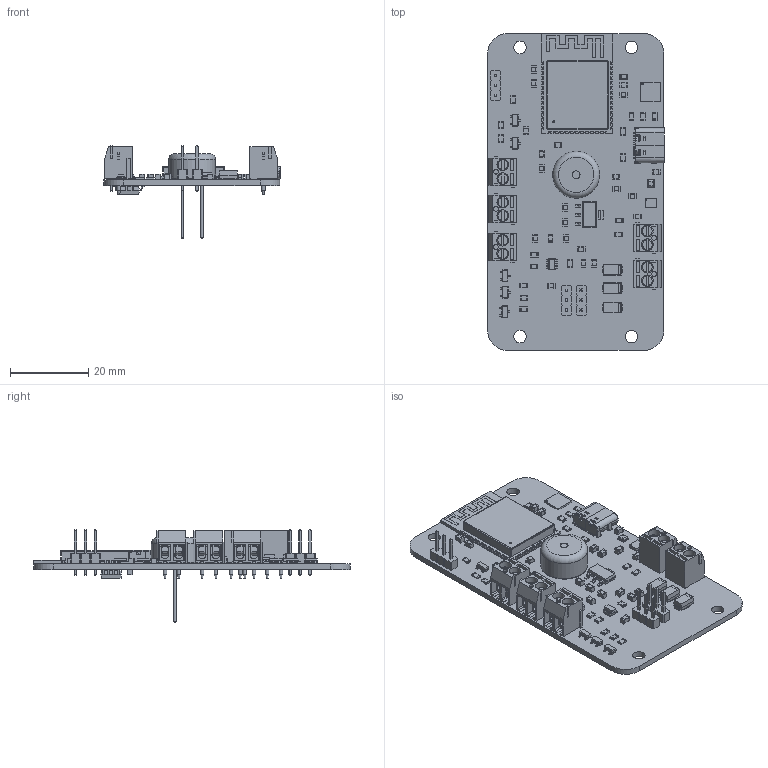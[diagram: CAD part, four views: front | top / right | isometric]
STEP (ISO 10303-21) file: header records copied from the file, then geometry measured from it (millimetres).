
FILE_DESCRIPTION(/* description */ ('STEP AP242 Edition 2','CAx-IF Rec.Pracs.---Representation and Presentation of Product Manufacturing Information (PMI)---4.0---2014-10-13','CAx-IF Rec.Pracs.---3D Tessellated Geometry---0.4---2014-09-14','2;1','CAx-IF Rec.Pracs.---User Defined Attributes---1.5---2016-08-15'),/* implementation_level */ '2;1');
FILE_NAME(/* name */ '695afeb4d13f1a023388937b',/* time_stamp */ '2026-01-04T23:58:46Z',/* author */ (''),/* organization */ (''),/* preprocessor_version */ 'ST-DEVELOPER v20',/* originating_system */ 'ONSHAPE BY PTC INC, 1.208',/* authorisation */ ' ');
FILE_SCHEMA (('AP242_MANAGED_MODEL_BASED_3D_ENGINEERING_MIM_LF { 1 0 10303 442 3 1 4 }'));
Products named in the file (168): RAM R2 1 (1); USB_C_Receptacle_GCT_USB4105-xx-A_16P_TopMnt_Horizontal; BMI270--3DModel-STEP-56544; PinHeader_1x03_P2.54mm_Vertical; CP2102N-A02-GQFN28; BMP390L--3DModel-STEP-510211; C_0805_2012Metric; SOT-23; ESP32-S3-WROOM-1-N8R2--3DModel-STEP-56544; R_0805_2012Metric; OSTTE020104--3DModel-STEP-56544; L_0805_2012Metric; D_SMA; SOT-223; LED_0805_2012Metric; Buzzer_TDK_PS1240P02BT_D12.2mm_H6.5mm; SOT-23-6; SOIC-8_5.3x5.3mm_P1.27mm; RAM R2_PCB
Assembly tree (231 placements, depth 2):
  RAM R2 1 (1)
    USB_C_Receptacle_GCT_USB4105-xx-A_16P_TopMnt_Horizontal
    BMI270--3DModel-STEP-56544
    BMI270--3DModel-STEP-56544
    USB_C_Receptacle_GCT_USB4105-xx-A_16P_TopMnt_Horizontal
    PinHeader_1x03_P2.54mm_Vertical  x3
    CP2102N-A02-GQFN28
    BMP390L--3DModel-STEP-510211
    C_0805_2012Metric  x21
    BMI270--3DModel-STEP-56544
    SOT-23  x5
    ESP32-S3-WROOM-1-N8R2--3DModel-STEP-56544
    R_0805_2012Metric  x17
    CP2102N-A02-GQFN28
    BMP390L--3DModel-STEP-510211
    CP2102N-A02-GQFN28
    USB_C_Receptacle_GCT_USB4105-xx-A_16P_TopMnt_Horizontal
    USB_C_Receptacle_GCT_USB4105-xx-A_16P_TopMnt_Horizontal
    OSTTE020104--3DModel-STEP-56544  x5
    USB_C_Receptacle_GCT_USB4105-xx-A_16P_TopMnt_Horizontal
    USB_C_Receptacle_GCT_USB4105-xx-A_16P_TopMnt_Horizontal
    OSTTE020104--3DModel-STEP-56544  x5
    CP2102N-A02-GQFN28
    L_0805_2012Metric
    ESP32-S3-WROOM-1-N8R2--3DModel-STEP-56544
    ESP32-S3-WROOM-1-N8R2--3DModel-STEP-56544
    USB_C_Receptacle_GCT_USB4105-xx-A_16P_TopMnt_Horizontal
    CP2102N-A02-GQFN28
    ESP32-S3-WROOM-1-N8R2--3DModel-STEP-56544
    USB_C_Receptacle_GCT_USB4105-xx-A_16P_TopMnt_Horizontal
    ESP32-S3-WROOM-1-N8R2--3DModel-STEP-56544
    CP2102N-A02-GQFN28
    ESP32-S3-WROOM-1-N8R2--3DModel-STEP-56544
    OSTTE020104--3DModel-STEP-56544  x5
    OSTTE020104--3DModel-STEP-56544  x5
    BMI270--3DModel-STEP-56544
    ESP32-S3-WROOM-1-N8R2--3DModel-STEP-56544
    CP2102N-A02-GQFN28
    CP2102N-A02-GQFN28
    D_SMA  x3
    ESP32-S3-WROOM-1-N8R2--3DModel-STEP-56544
    CP2102N-A02-GQFN28
    ESP32-S3-WROOM-1-N8R2--3DModel-STEP-56544
    BMP390L--3DModel-STEP-510211
    OSTTE020104--3DModel-STEP-56544  x5
    CP2102N-A02-GQFN28
    USB_C_Receptacle_GCT_USB4105-xx-A_16P_TopMnt_Horizontal
    BMI270--3DModel-STEP-56544
    BMI270--3DModel-STEP-56544
    ESP32-S3-WROOM-1-N8R2--3DModel-STEP-56544
    BMP390L--3DModel-STEP-510211
    CP2102N-A02-GQFN28
    CP2102N-A02-GQFN28
    CP2102N-A02-GQFN28
    ESP32-S3-WROOM-1-N8R2--3DModel-STEP-56544
    ESP32-S3-WROOM-1-N8R2--3DModel-STEP-56544
    ESP32-S3-WROOM-1-N8R2--3DModel-STEP-56544
    ESP32-S3-WROOM-1-N8R2--3DModel-STEP-56544
    ESP32-S3-WROOM-1-N8R2--3DModel-STEP-56544
    ESP32-S3-WROOM-1-N8R2--3DModel-STEP-56544
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Bounding box: 45.13 x 81 x 23.54 mm (x, y, z)
Volume: 8511 mm3; surface area: 17120.6 mm2
Topology: 231 solids, 231 shells, 5007 faces, 12774 edges, 8381 vertices
Faces by surface type: plane 3906, cylinder 1031, cone 38, torus 28, sphere 4
Full cylindrical faces by diameter (mm): 0.25 x2, 0.35 x4, 0.5 x2, 0.502 x1, 0.65 x4, 0.9 x10, 1 x11, 1.2 x15, 1.97 x10, 1.995 x10, 2 x11, 3 x20, 3.2 x4, 12 x1
Entity records: 95920 total; most frequent: CARTESIAN_POINT 15389, ORIENTED_EDGE 14540, DIRECTION 14426, EDGE_CURVE 7270, LINE 6328, VECTOR 6328, VERTEX_POINT 4824, AXIS2_PLACEMENT_3D 4049
